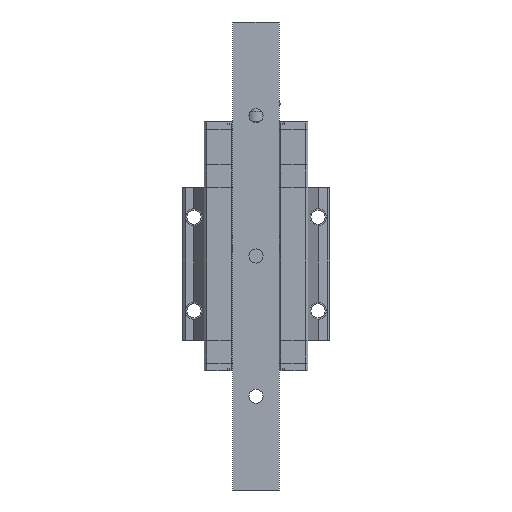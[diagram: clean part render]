
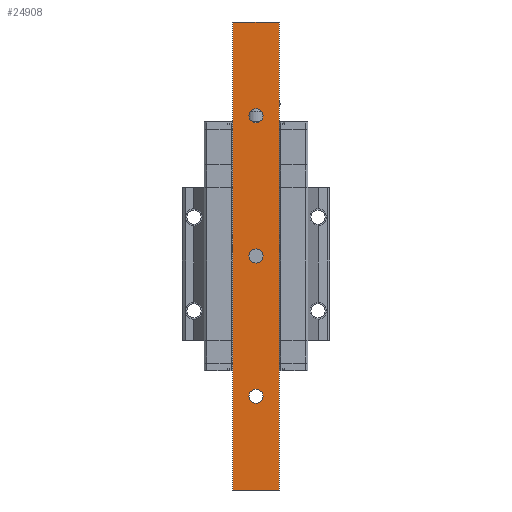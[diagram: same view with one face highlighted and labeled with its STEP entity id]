
A CAD part, front view. The second image highlights one B-rep face of the part: STEP entity #24908.
In plain terms, the highlighted planar face has unit normal (0, -1, 0).
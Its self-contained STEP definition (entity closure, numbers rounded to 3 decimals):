
#688 = DIRECTION ( 'NONE',  ( 0., 1., 0. ) ) ;
#1546 = ORIENTED_EDGE ( 'NONE', *, *, #16703, .F. ) ;
#3114 = VERTEX_POINT ( 'NONE', #14423 ) ;
#3160 = VECTOR ( 'NONE', #4111, 1000. ) ;
#3281 = AXIS2_PLACEMENT_3D ( 'NONE', #27512, #20153, #5159 ) ;
#3407 = CARTESIAN_POINT ( 'NONE',  ( 0., -4.3, 57. ) ) ;
#3771 = VERTEX_POINT ( 'NONE', #24801 ) ;
#4111 = DIRECTION ( 'NONE',  ( 0., 0., 1. ) ) ;
#4452 = DIRECTION ( 'NONE',  ( 0., 0., 1. ) ) ;
#4938 = VERTEX_POINT ( 'NONE', #27591 ) ;
#5013 = EDGE_CURVE ( 'NONE', #16458, #4938, #8221, .T. ) ;
#5159 = DIRECTION ( 'NONE',  ( 0., 0., 1. ) ) ;
#5763 = LINE ( 'NONE', #11439, #23695 ) ;
#6222 = EDGE_CURVE ( 'NONE', #10550, #11430, #8025, .T. ) ;
#8025 = CIRCLE ( 'NONE', #18263, 3. ) ;
#8073 = AXIS2_PLACEMENT_3D ( 'NONE', #9746, #14409, #19632 ) ;
#8221 = CIRCLE ( 'NONE', #3281, 3. ) ;
#8404 = AXIS2_PLACEMENT_3D ( 'NONE', #25383, #25183, #15254 ) ;
#9104 = VERTEX_POINT ( 'NONE', #21853 ) ;
#9270 = CIRCLE ( 'NONE', #21890, 3. ) ;
#9746 = CARTESIAN_POINT ( 'NONE',  ( -10., -4.3, -100. ) ) ;
#10494 = VERTEX_POINT ( 'NONE', #25064 ) ;
#10550 = VERTEX_POINT ( 'NONE', #3407 ) ;
#11430 = VERTEX_POINT ( 'NONE', #30247 ) ;
#11439 = CARTESIAN_POINT ( 'NONE',  ( 10., -4.3, -100. ) ) ;
#11665 = AXIS2_PLACEMENT_3D ( 'NONE', #14321, #16841, #4452 ) ;
#12049 = DIRECTION ( 'NONE',  ( 0., 0., 1. ) ) ;
#12122 = PLANE ( 'NONE',  #8073 ) ;
#12626 = DIRECTION ( 'NONE',  ( 1., 0., 0. ) ) ;
#12725 = ORIENTED_EDGE ( 'NONE', *, *, #16341, .T. ) ;
#13456 = CIRCLE ( 'NONE', #11665, 3. ) ;
#13896 = EDGE_LOOP ( 'NONE', ( #12725, #23416 ) ) ;
#14073 = CIRCLE ( 'NONE', #8404, 3. ) ;
#14321 = CARTESIAN_POINT ( 'NONE',  ( 0., -4.3, 60. ) ) ;
#14363 = ORIENTED_EDGE ( 'NONE', *, *, #21254, .T. ) ;
#14409 = DIRECTION ( 'NONE',  ( 0., -1., 0. ) ) ;
#14423 = CARTESIAN_POINT ( 'NONE',  ( 0., -4.3, -3. ) ) ;
#14565 = ORIENTED_EDGE ( 'NONE', *, *, #27884, .F. ) ;
#14671 = CIRCLE ( 'NONE', #22734, 3. ) ;
#14683 = CARTESIAN_POINT ( 'NONE',  ( -10., -4.3, -100. ) ) ;
#14698 = LINE ( 'NONE', #17316, #24068 ) ;
#15254 = DIRECTION ( 'NONE',  ( 0., 0., 1. ) ) ;
#15275 = EDGE_LOOP ( 'NONE', ( #19552, #14565, #1546, #27837 ) ) ;
#15888 = FACE_BOUND ( 'NONE', #13896, .T. ) ;
#16341 = EDGE_CURVE ( 'NONE', #4938, #16458, #14073, .T. ) ;
#16458 = VERTEX_POINT ( 'NONE', #24377 ) ;
#16703 = EDGE_CURVE ( 'NONE', #10494, #25080, #18324, .T. ) ;
#16841 = DIRECTION ( 'NONE',  ( 0., 1., 0. ) ) ;
#17314 = DIRECTION ( 'NONE',  ( 1., 0., 0. ) ) ;
#17316 = CARTESIAN_POINT ( 'NONE',  ( -10., -4.3, 100. ) ) ;
#17888 = DIRECTION ( 'NONE',  ( 0., 1., 0. ) ) ;
#18263 = AXIS2_PLACEMENT_3D ( 'NONE', #26901, #29406, #12049 ) ;
#18324 = LINE ( 'NONE', #26213, #3160 ) ;
#19219 = EDGE_LOOP ( 'NONE', ( #24852, #27494 ) ) ;
#19552 = ORIENTED_EDGE ( 'NONE', *, *, #31969, .T. ) ;
#19632 = DIRECTION ( 'NONE',  ( 1., 0., 0. ) ) ;
#20153 = DIRECTION ( 'NONE',  ( 0., 1., 0. ) ) ;
#20462 = FACE_OUTER_BOUND ( 'NONE', #15275, .T. ) ;
#20775 = VERTEX_POINT ( 'NONE', #25524 ) ;
#21254 = EDGE_CURVE ( 'NONE', #11430, #10550, #13456, .T. ) ;
#21853 = CARTESIAN_POINT ( 'NONE',  ( 0., -4.3, 3. ) ) ;
#21890 = AXIS2_PLACEMENT_3D ( 'NONE', #28158, #17888, #30539 ) ;
#22357 = EDGE_CURVE ( 'NONE', #10494, #3771, #28175, .T. ) ;
#22734 = AXIS2_PLACEMENT_3D ( 'NONE', #30714, #688, #28354 ) ;
#22838 = FACE_BOUND ( 'NONE', #27156, .T. ) ;
#23416 = ORIENTED_EDGE ( 'NONE', *, *, #5013, .T. ) ;
#23695 = VECTOR ( 'NONE', #24100, 1000. ) ;
#24068 = VECTOR ( 'NONE', #12626, 1000. ) ;
#24100 = DIRECTION ( 'NONE',  ( 0., 0., 1. ) ) ;
#24377 = CARTESIAN_POINT ( 'NONE',  ( 0., -4.3, -63. ) ) ;
#24801 = CARTESIAN_POINT ( 'NONE',  ( 10., -4.3, -100. ) ) ;
#24852 = ORIENTED_EDGE ( 'NONE', *, *, #27969, .T. ) ;
#24908 = ADVANCED_FACE ( 'NONE', ( #15888, #28385, #22838, #20462 ), #12122, .T. ) ;
#25064 = CARTESIAN_POINT ( 'NONE',  ( -10., -4.3, -100. ) ) ;
#25080 = VERTEX_POINT ( 'NONE', #27719 ) ;
#25183 = DIRECTION ( 'NONE',  ( 0., 1., 0. ) ) ;
#25383 = CARTESIAN_POINT ( 'NONE',  ( 0., -4.3, -60. ) ) ;
#25524 = CARTESIAN_POINT ( 'NONE',  ( 10., -4.3, 100. ) ) ;
#26213 = CARTESIAN_POINT ( 'NONE',  ( -10., -4.3, -100. ) ) ;
#26901 = CARTESIAN_POINT ( 'NONE',  ( 0., -4.3, 60. ) ) ;
#27156 = EDGE_LOOP ( 'NONE', ( #14363, #32219 ) ) ;
#27494 = ORIENTED_EDGE ( 'NONE', *, *, #28815, .T. ) ;
#27512 = CARTESIAN_POINT ( 'NONE',  ( 0., -4.3, -60. ) ) ;
#27591 = CARTESIAN_POINT ( 'NONE',  ( 0., -4.3, -57. ) ) ;
#27719 = CARTESIAN_POINT ( 'NONE',  ( -10., -4.3, 100. ) ) ;
#27837 = ORIENTED_EDGE ( 'NONE', *, *, #22357, .T. ) ;
#27884 = EDGE_CURVE ( 'NONE', #25080, #20775, #14698, .T. ) ;
#27969 = EDGE_CURVE ( 'NONE', #9104, #3114, #14671, .T. ) ;
#28158 = CARTESIAN_POINT ( 'NONE',  ( 0., -4.3, 0. ) ) ;
#28175 = LINE ( 'NONE', #14683, #31267 ) ;
#28354 = DIRECTION ( 'NONE',  ( 0., 0., 1. ) ) ;
#28385 = FACE_BOUND ( 'NONE', #19219, .T. ) ;
#28815 = EDGE_CURVE ( 'NONE', #3114, #9104, #9270, .T. ) ;
#29406 = DIRECTION ( 'NONE',  ( 0., 1., 0. ) ) ;
#30247 = CARTESIAN_POINT ( 'NONE',  ( 0., -4.3, 63. ) ) ;
#30539 = DIRECTION ( 'NONE',  ( 0., 0., 1. ) ) ;
#30714 = CARTESIAN_POINT ( 'NONE',  ( 0., -4.3, 0. ) ) ;
#31267 = VECTOR ( 'NONE', #17314, 1000. ) ;
#31969 = EDGE_CURVE ( 'NONE', #3771, #20775, #5763, .T. ) ;
#32219 = ORIENTED_EDGE ( 'NONE', *, *, #6222, .T. ) ;
